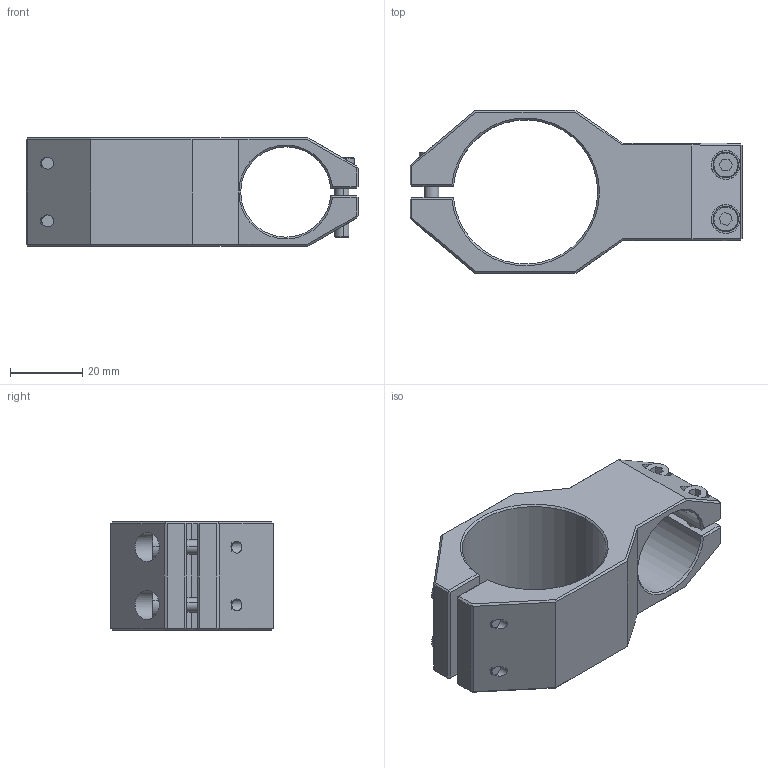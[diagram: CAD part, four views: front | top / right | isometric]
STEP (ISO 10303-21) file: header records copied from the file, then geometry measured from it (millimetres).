
FILE_DESCRIPTION (( 'STEP AP203' ), '1' );
FILE_NAME ('SMBT-4025T.STEP', '2023-10-23T01:16:57', ( '微软用户' ), ( '微软中国' ), 'SwSTEP 2.0', 'SolidWorks 2019', '' );
FILE_SCHEMA (( 'CONFIG_CONTROL_DESIGN' ));
Length unit declared in the file: millimetre
Products named in the file (4): SMBT-4025; PTC-M4L18; PTS-M4; SMBT-4025T
Assembly tree (9 placements, depth 2):
  SMBT-4025T
    SMBT-4025
    PTC-M4L18  x4
    PTS-M4  x4
Bounding box: 92 x 45 x 30 mm (x, y, z)
Volume: 38869.4 mm3; surface area: 18745.8 mm2
Topology: 9 solids, 9 shells, 863 faces, 2420 edges, 1579 vertices
Faces by surface type: plane 766, cylinder 60, cone 37
Entity records: 10163 total; most frequent: CARTESIAN_POINT 1730, DIRECTION 1681, ORIENTED_EDGE 1636, EDGE_CURVE 818, AXIS2_PLACEMENT_3D 564, VECTOR 553, LINE 553, VERTEX_POINT 517
